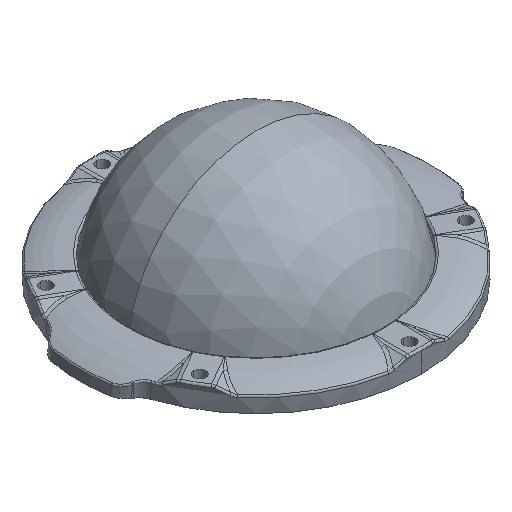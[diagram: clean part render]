
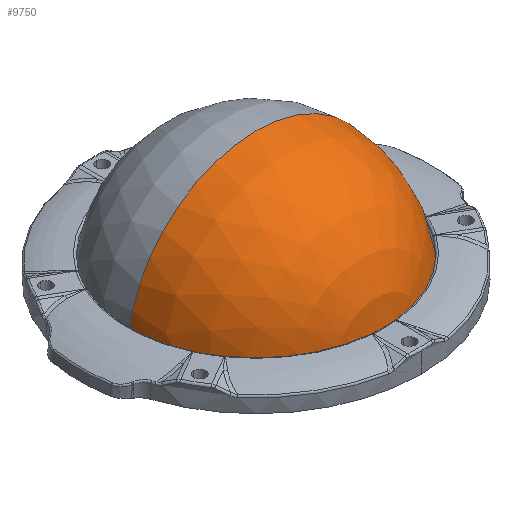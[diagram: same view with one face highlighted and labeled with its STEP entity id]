
A CAD part, isometric view. The second image highlights one B-rep face of the part: STEP entity #9750.
In plain terms, the highlighted spherical face has radius 34.35 mm.
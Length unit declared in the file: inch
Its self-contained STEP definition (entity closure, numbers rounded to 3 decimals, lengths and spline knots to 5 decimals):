
#980 = CIRCLE ( 'NONE', #10384, 1.34513 ) ;
#1554 = DIRECTION ( 'NONE',  ( 0., -1., 0. ) ) ;
#1723 = VERTEX_POINT ( 'NONE', #13342 ) ;
#1903 = FACE_OUTER_BOUND ( 'NONE', #3806, .T. ) ;
#1917 = EDGE_CURVE ( 'NONE', #14060, #8277, #980, .T. ) ;
#2096 = ORIENTED_EDGE ( 'NONE', *, *, #2795, .T. ) ;
#2398 = AXIS2_PLACEMENT_3D ( 'NONE', #12429, #12526, #12476 ) ;
#2567 = AXIS2_PLACEMENT_3D ( 'NONE', #10867, #3334, #6671 ) ;
#2584 = AXIS2_PLACEMENT_3D ( 'NONE', #11428, #11571, #6004 ) ;
#2587 = CARTESIAN_POINT ( 'NONE',  ( 0., 0., 1.06299 ) ) ;
#2795 = EDGE_CURVE ( 'NONE', #1723, #3530, #13948, .T. ) ;
#2842 = CARTESIAN_POINT ( 'NONE',  ( -1.34513, 0., 1.20269 ) ) ;
#3334 = DIRECTION ( 'NONE',  ( 0., 0., 1. ) ) ;
#3530 = VERTEX_POINT ( 'NONE', #12764 ) ;
#3806 = EDGE_LOOP ( 'NONE', ( #12311, #7827, #4102, #2096 ) ) ;
#4102 = ORIENTED_EDGE ( 'NONE', *, *, #8299, .T. ) ;
#5457 = CARTESIAN_POINT ( 'NONE',  ( 0., 0., 1.20269 ) ) ;
#5771 = CIRCLE ( 'NONE', #2567, 1.34513 ) ;
#6004 = DIRECTION ( 'NONE',  ( 1., 0., 0. ) ) ;
#6671 = DIRECTION ( 'NONE',  ( 0., 1., 0. ) ) ;
#7809 = AXIS2_PLACEMENT_3D ( 'NONE', #2587, #1554, #12517 ) ;
#7827 = ORIENTED_EDGE ( 'NONE', *, *, #1917, .T. ) ;
#8082 = SPHERICAL_SURFACE ( 'NONE', #2584, 1.35236 ) ;
#8277 = VERTEX_POINT ( 'NONE', #13945 ) ;
#8299 = EDGE_CURVE ( 'NONE', #8277, #1723, #5771, .T. ) ;
#8641 = DIRECTION ( 'NONE',  ( 0., 0., 1. ) ) ;
#9265 = CIRCLE ( 'NONE', #2398, 1.35236 ) ;
#9750 = ADVANCED_FACE ( 'NONE', ( #1903 ), #8082, .T. ) ;
#10384 = AXIS2_PLACEMENT_3D ( 'NONE', #5457, #8641, #10774 ) ;
#10774 = DIRECTION ( 'NONE',  ( 0., 1., 0. ) ) ;
#10867 = CARTESIAN_POINT ( 'NONE',  ( 0., 0., 1.20269 ) ) ;
#11428 = CARTESIAN_POINT ( 'NONE',  ( 0., 0., 1.06299 ) ) ;
#11571 = DIRECTION ( 'NONE',  ( 0., 1., 0. ) ) ;
#12311 = ORIENTED_EDGE ( 'NONE', *, *, #13947, .F. ) ;
#12429 = CARTESIAN_POINT ( 'NONE',  ( 0., 0., 1.06299 ) ) ;
#12476 = DIRECTION ( 'NONE',  ( 0., 0., 1. ) ) ;
#12517 = DIRECTION ( 'NONE',  ( 0., 0., -1. ) ) ;
#12526 = DIRECTION ( 'NONE',  ( 0., 1., 0. ) ) ;
#12764 = CARTESIAN_POINT ( 'NONE',  ( 0., 0., 2.41535 ) ) ;
#13342 = CARTESIAN_POINT ( 'NONE',  ( 1.34513, 0., 1.20269 ) ) ;
#13945 = CARTESIAN_POINT ( 'NONE',  ( 0., -1.34513, 1.20269 ) ) ;
#13947 = EDGE_CURVE ( 'NONE', #14060, #3530, #9265, .T. ) ;
#13948 = CIRCLE ( 'NONE', #7809, 1.35236 ) ;
#14060 = VERTEX_POINT ( 'NONE', #2842 ) ;
